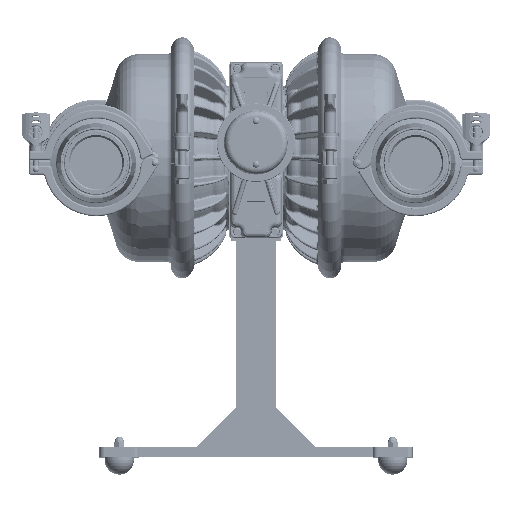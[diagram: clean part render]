
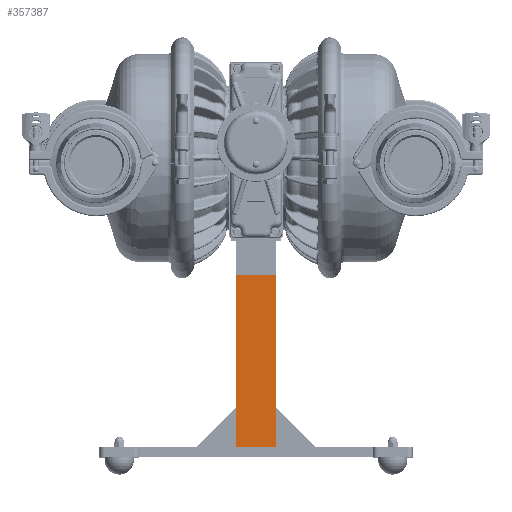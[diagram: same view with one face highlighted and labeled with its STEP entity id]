
A CAD part, top view. The second image highlights one B-rep face of the part: STEP entity #357387.
In plain terms, the highlighted planar face has unit normal (0, 0, 1).
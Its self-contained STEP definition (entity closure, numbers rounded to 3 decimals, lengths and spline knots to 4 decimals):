
#143159=DIRECTION('',(0.,-1.,0.));
#143160=VECTOR('',#143159,8.68);
#143161=CARTESIAN_POINT('',(-1.,-5.88,-1.8981));
#143162=LINE('',#143161,#143160);
#143411=DIRECTION('',(-1.,0.,0.));
#143412=VECTOR('',#143411,2.);
#143413=CARTESIAN_POINT('',(1.,-14.56,-1.8981));
#143414=LINE('',#143413,#143412);
#143975=DIRECTION('',(-1.,0.,0.));
#143976=VECTOR('',#143975,2.);
#143977=CARTESIAN_POINT('',(1.,-5.88,-1.8981));
#143978=LINE('',#143977,#143976);
#143979=DIRECTION('',(0.,-1.,0.));
#143980=VECTOR('',#143979,8.68);
#143981=CARTESIAN_POINT('',(1.,-5.88,-1.8981));
#143982=LINE('',#143981,#143980);
#219031=CARTESIAN_POINT('',(1.,-14.56,-1.8981));
#219032=CARTESIAN_POINT('',(-1.,-14.56,-1.8981));
#219033=VERTEX_POINT('',#219031);
#219034=VERTEX_POINT('',#219032);
#219059=CARTESIAN_POINT('',(1.,-5.88,-1.8981));
#219060=CARTESIAN_POINT('',(-1.,-5.88,-1.8981));
#219061=VERTEX_POINT('',#219059);
#219062=VERTEX_POINT('',#219060);
#357375=CARTESIAN_POINT('',(1.,-5.88,-1.8981));
#357376=DIRECTION('',(0.,0.,1.));
#357377=DIRECTION('',(-1.,0.,0.));
#357378=AXIS2_PLACEMENT_3D('',#357375,#357376,#357377);
#357379=PLANE('',#357378);
#357381=ORIENTED_EDGE('',*,*,#357380,.F.);
#357382=ORIENTED_EDGE('',*,*,#356383,.T.);
#357383=ORIENTED_EDGE('',*,*,#356660,.T.);
#357384=ORIENTED_EDGE('',*,*,#356335,.F.);
#357385=EDGE_LOOP('',(#357381,#357382,#357383,#357384));
#357386=FACE_OUTER_BOUND('',#357385,.F.);
#357387=ADVANCED_FACE('',(#357386),#357379,.T.);
#356335=EDGE_CURVE('',#219062,#219034,#143162,.T.);
#356383=EDGE_CURVE('',#219061,#219033,#143982,.T.);
#356660=EDGE_CURVE('',#219033,#219034,#143414,.T.);
#357380=EDGE_CURVE('',#219061,#219062,#143978,.T.);
